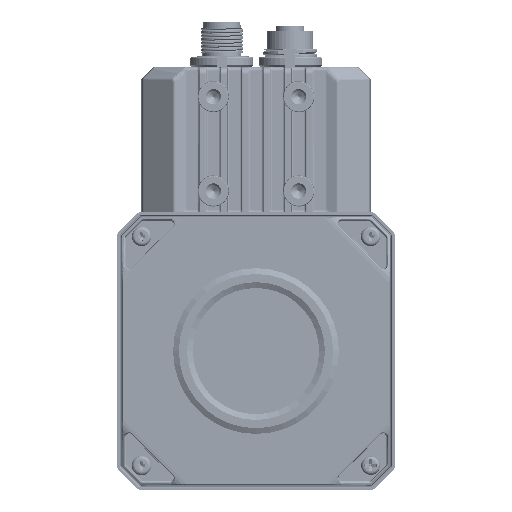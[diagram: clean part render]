
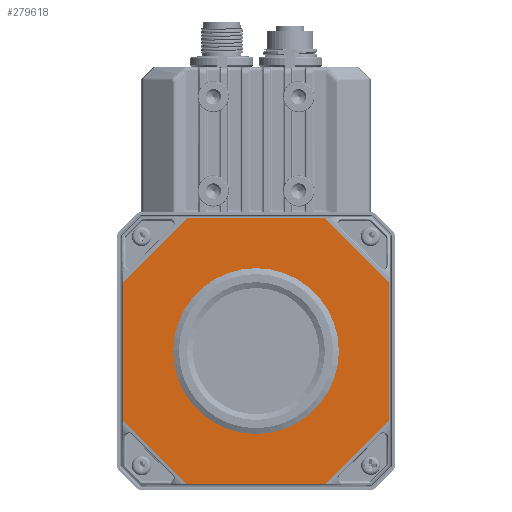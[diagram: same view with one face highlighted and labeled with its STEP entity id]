
A CAD part, front view. The second image highlights one B-rep face of the part: STEP entity #279618.
In plain terms, the highlighted planar face has unit normal (0, -1, 0) as drawn and (0, 0, 1) by its records, which use the part's own axes.
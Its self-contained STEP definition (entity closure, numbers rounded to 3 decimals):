
#271946=DIRECTION('',(0.,-1.,0.));
#271947=VECTOR('',#271946,39.028);
#271948=CARTESIAN_POINT('',(-37.28,19.514,4.6));
#271949=LINE('',#271948,#271947);
#272739=CARTESIAN_POINT('',(-19.514,37.28,4.6));
#272755=DIRECTION('',(-1.,0.,0.));
#272756=VECTOR('',#272755,39.028);
#272757=CARTESIAN_POINT('',(19.514,37.28,4.6));
#272758=LINE('',#272757,#272756);
#273315=DIRECTION('',(1.,0.,0.));
#273316=VECTOR('',#273315,39.028);
#273317=CARTESIAN_POINT('',(-19.514,-37.28,4.6));
#273318=LINE('',#273317,#273316);
#273384=DIRECTION('',(0.707,0.707,0.));
#273385=VECTOR('',#273384,25.125);
#273386=CARTESIAN_POINT('',(-37.28,19.514,4.6));
#273387=LINE('',#273386,#273385);
#273388=DIRECTION('',(0.707,-0.707,0.));
#273389=VECTOR('',#273388,25.125);
#273390=CARTESIAN_POINT('',(19.514,37.28,4.6));
#273391=LINE('',#273390,#273389);
#273392=DIRECTION('',(-0.707,-0.707,0.));
#273393=VECTOR('',#273392,25.125);
#273394=CARTESIAN_POINT('',(37.28,-19.514,4.6));
#273395=LINE('',#273394,#273393);
#273396=DIRECTION('',(-0.707,0.707,0.));
#273397=VECTOR('',#273396,25.125);
#273398=CARTESIAN_POINT('',(-19.514,-37.28,4.6));
#273399=LINE('',#273398,#273397);
#273400=CARTESIAN_POINT('',(0.,0.,4.6));
#273401=DIRECTION('',(0.,0.,1.));
#273402=DIRECTION('',(0.,-1.,0.));
#273403=AXIS2_PLACEMENT_3D('',#273400,#273401,#273402);
#273405=CARTESIAN_POINT('',(0.,0.,4.6));
#273406=DIRECTION('',(0.,0.,1.));
#273407=DIRECTION('',(0.,1.,0.));
#273408=AXIS2_PLACEMENT_3D('',#273405,#273406,#273407);
#273414=DIRECTION('',(0.,1.,0.));
#273415=VECTOR('',#273414,39.028);
#273416=CARTESIAN_POINT('',(37.28,-19.514,4.6));
#273417=LINE('',#273416,#273415);
#275763=CARTESIAN_POINT('',(-37.28,-19.514,4.6));
#275764=VERTEX_POINT('',#275763);
#275765=CARTESIAN_POINT('',(-37.28,19.514,4.6));
#275766=VERTEX_POINT('',#275765);
#275770=VERTEX_POINT('',#272739);
#275876=CARTESIAN_POINT('',(19.514,-37.28,4.6));
#275877=VERTEX_POINT('',#275876);
#275878=CARTESIAN_POINT('',(-19.514,-37.28,4.6));
#275879=VERTEX_POINT('',#275878);
#275883=CARTESIAN_POINT('',(19.514,37.28,4.6));
#275884=VERTEX_POINT('',#275883);
#275885=CARTESIAN_POINT('',(37.28,19.514,4.6));
#275886=VERTEX_POINT('',#275885);
#275887=CARTESIAN_POINT('',(37.28,-19.514,4.6));
#275888=VERTEX_POINT('',#275887);
#275889=CARTESIAN_POINT('',(0.,-21.7,4.6));
#275890=CARTESIAN_POINT('',(0.,21.7,4.6));
#275891=VERTEX_POINT('',#275889);
#275892=VERTEX_POINT('',#275890);
#279595=CARTESIAN_POINT('',(0.,0.,4.6));
#279596=DIRECTION('',(0.,0.,1.));
#279597=DIRECTION('',(1.,0.,0.));
#279598=AXIS2_PLACEMENT_3D('',#279595,#279596,#279597);
#279599=PLANE('',#279598);
#279600=ORIENTED_EDGE('',*,*,#277165,.F.);
#279601=ORIENTED_EDGE('',*,*,#277252,.T.);
#279602=ORIENTED_EDGE('',*,*,#278428,.F.);
#279603=ORIENTED_EDGE('',*,*,#278515,.T.);
#279605=ORIENTED_EDGE('',*,*,#279604,.F.);
#279607=ORIENTED_EDGE('',*,*,#279606,.T.);
#279608=ORIENTED_EDGE('',*,*,#279491,.F.);
#279609=ORIENTED_EDGE('',*,*,#279581,.T.);
#279610=EDGE_LOOP('',(#279600,#279601,#279602,#279603,#279605,#279607,#279608,
#279609));
#279611=FACE_OUTER_BOUND('',#279610,.F.);
#279613=ORIENTED_EDGE('',*,*,#279612,.T.);
#279615=ORIENTED_EDGE('',*,*,#279614,.T.);
#279616=EDGE_LOOP('',(#279613,#279615));
#279617=FACE_BOUND('',#279616,.F.);
#279618=ADVANCED_FACE('',(#279611,#279617),#279599,.T.);
#273404=CIRCLE('',#273403,21.7);
#273409=CIRCLE('',#273408,21.7);
#277165=EDGE_CURVE('',#275766,#275764,#271949,.T.);
#277252=EDGE_CURVE('',#275766,#275770,#273387,.T.);
#278428=EDGE_CURVE('',#275884,#275770,#272758,.T.);
#278515=EDGE_CURVE('',#275884,#275886,#273391,.T.);
#279491=EDGE_CURVE('',#275879,#275877,#273318,.T.);
#279581=EDGE_CURVE('',#275879,#275764,#273399,.T.);
#279604=EDGE_CURVE('',#275888,#275886,#273417,.T.);
#279606=EDGE_CURVE('',#275888,#275877,#273395,.T.);
#279612=EDGE_CURVE('',#275891,#275892,#273404,.T.);
#279614=EDGE_CURVE('',#275892,#275891,#273409,.T.);
